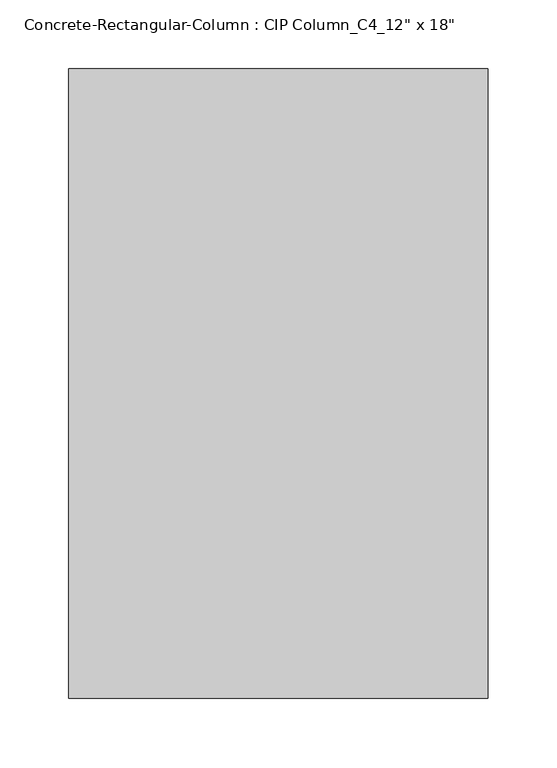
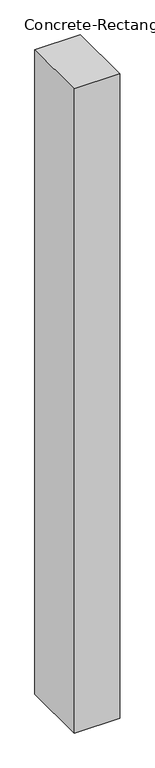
"""IFC4 building model written with IfcOpenShell, lengths in millimetres: column geometry."""

from ifc_helpers import new_model, si_unit, frame, origin, place, context, project, spatial, polyline, outline, extrude, source, transform, mapped, element, save


def column_07250704(model_context):
    return source(origin(), model_context, "Body", "SweptSolid", [
        extrude(outline(polyline([(152.4, 228.6), (152.4, -228.6), (-152.4, -228.6), (-152.4, 228.6), (152.4, 228.6)])), frame((0.0, 0.0, 4445.0), z_axis=(0.0, 0.0, 1.0), x_axis=(1.0, 0.0, 0.0)), (0.0, 0.0, 1.0), 4572.0),
    ])


if __name__ == "__main__":
    model = new_model("IFC4")
    model_context = context("Model", 3, world=origin())
    ifc_project = project(units=[si_unit("LENGTHUNIT", "METRE", prefix="MILLI")], contexts=[model_context])
    site = spatial("IfcSite", under=ifc_project)
    building = spatial("IfcBuilding", under=site)
    placement = place(None, origin())
    column_shape = column_07250704(model_context)
    element("IfcColumn", 1, ObjectType="Concrete-Rectangular-Column : CIP Column_C4_12\" x 18\"", at=placement, inside=building, context=model_context, shape_type="MappedRepresentation", body=[
        mapped(column_shape, transform((0.0, 0.0, 0.0), x_axis=(1.0, 0.0, 0.0), y_axis=(0.0, 1.0, 0.0), z_axis=(0.0, 0.0, 1.0))),
    ])
    save(model, "model.ifc")
